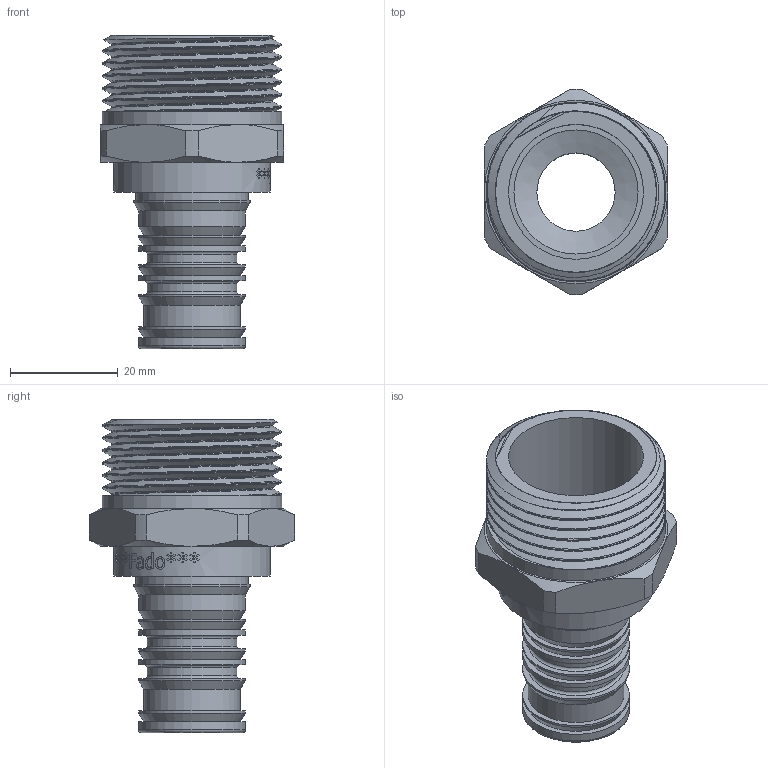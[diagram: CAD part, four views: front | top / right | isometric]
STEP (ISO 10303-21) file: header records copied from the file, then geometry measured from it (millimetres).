
FILE_DESCRIPTION(/* description */ (''),/* implementation_level */ '2;1');
FILE_NAME(/* name */ 'C:\Users\Doom\Desktop\Фадотех\Пресс\HDM25-1 31.03.2020\HDM25-1 31.03.2020.stp',/* time_stamp */ '2022-08-12T10:31:10+03:00',/* author */ ('Doom'),/* organization */ (''),/* preprocessor_version */ 'ST-DEVELOPER v18',/* originating_system */ 'Autodesk Inventor 2020',/* authorisation */ '');
FILE_SCHEMA (('AUTOMOTIVE_DESIGN { 1 0 10303 214 3 1 1 }'));
Length unit declared in the file: millimetre
Products named in the file (1): 16 Model 18.12.2019
Bounding box: 34 x 37.99 x 58 mm (x, y, z)
Volume: 13880.5 mm3; surface area: 14215.9 mm2
Topology: 2 solids, 2 shells, 527 faces, 1454 edges, 978 vertices
Faces by surface type: bspline 329, plane 107, cylinder 65, cone 21, torus 5
Full cylindrical faces by diameter (mm): 14.5 x1, 16.6 x2, 17.8 x1, 19.8 x8, 20.8 x1, 21.5 x1, 23 x1, 25 x1, 29 x1, 29.776 x2, 33.2 x6
Entity records: 26235 total; most frequent: CARTESIAN_POINT 14841, ORIENTED_EDGE 2908, EDGE_CURVE 1454, DIRECTION 1391, VERTEX_POINT 978, B_SPLINE_CURVE_WITH_KNOTS 679, EDGE_LOOP 578, FACE_OUTER_BOUND 527
